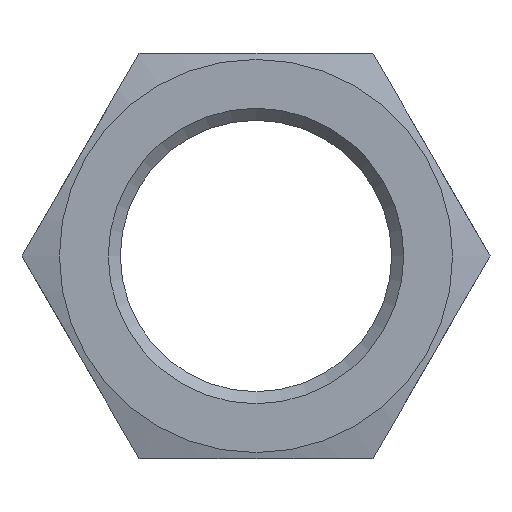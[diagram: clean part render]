
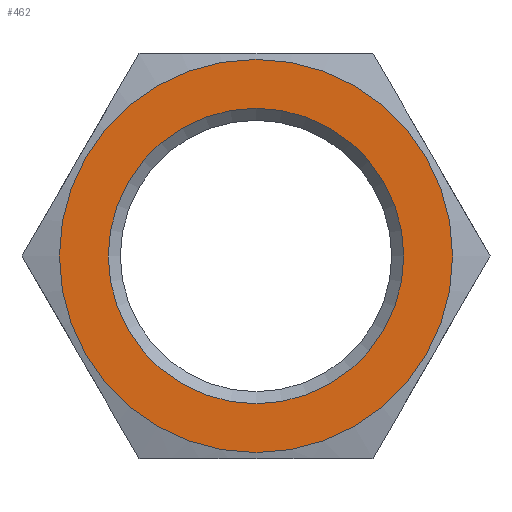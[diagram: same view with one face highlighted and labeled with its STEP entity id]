
A CAD part, front view. The second image highlights one B-rep face of the part: STEP entity #462.
In plain terms, the highlighted planar face has unit normal (0, -1, 0).
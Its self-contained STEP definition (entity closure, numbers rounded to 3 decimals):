
#35=FACE_BOUND('',#128,.T.);
#38=PLANE('',#541);
#100=FACE_OUTER_BOUND('',#127,.T.);
#127=EDGE_LOOP('',(#382,#383));
#128=EDGE_LOOP('',(#384));
#173=CIRCLE('',#540,24.423);
#174=CIRCLE('',#542,32.5);
#175=CIRCLE('',#543,32.5);
#215=VERTEX_POINT('',#820);
#216=VERTEX_POINT('',#824);
#217=VERTEX_POINT('',#825);
#275=EDGE_CURVE('',#215,#215,#173,.T.);
#277=EDGE_CURVE('',#216,#217,#174,.T.);
#278=EDGE_CURVE('',#217,#216,#175,.T.);
#382=ORIENTED_EDGE('',*,*,#277,.F.);
#383=ORIENTED_EDGE('',*,*,#278,.F.);
#384=ORIENTED_EDGE('',*,*,#275,.F.);
#462=ADVANCED_FACE('',(#100,#35),#38,.T.);
#540=AXIS2_PLACEMENT_3D('',#821,#661,#662);
#541=AXIS2_PLACEMENT_3D('',#823,#664,#665);
#542=AXIS2_PLACEMENT_3D('',#826,#666,#667);
#543=AXIS2_PLACEMENT_3D('',#827,#668,#669);
#661=DIRECTION('center_axis',(0.,-1.,0.));
#662=DIRECTION('ref_axis',(0.,0.,-1.));
#664=DIRECTION('center_axis',(0.,-1.,0.));
#665=DIRECTION('ref_axis',(0.,0.,-1.));
#666=DIRECTION('center_axis',(0.,1.,0.));
#667=DIRECTION('ref_axis',(1.,0.,0.));
#668=DIRECTION('center_axis',(0.,1.,0.));
#669=DIRECTION('ref_axis',(1.,0.,0.));
#820=CARTESIAN_POINT('',(0.,-63.,24.423));
#821=CARTESIAN_POINT('Origin',(0.,-63.,0.));
#823=CARTESIAN_POINT('Origin',(0.,-63.,32.5));
#824=CARTESIAN_POINT('',(0.,-63.,32.5));
#825=CARTESIAN_POINT('',(0.,-63.,-32.5));
#826=CARTESIAN_POINT('Origin',(0.,-63.,0.));
#827=CARTESIAN_POINT('Origin',(0.,-63.,0.));
